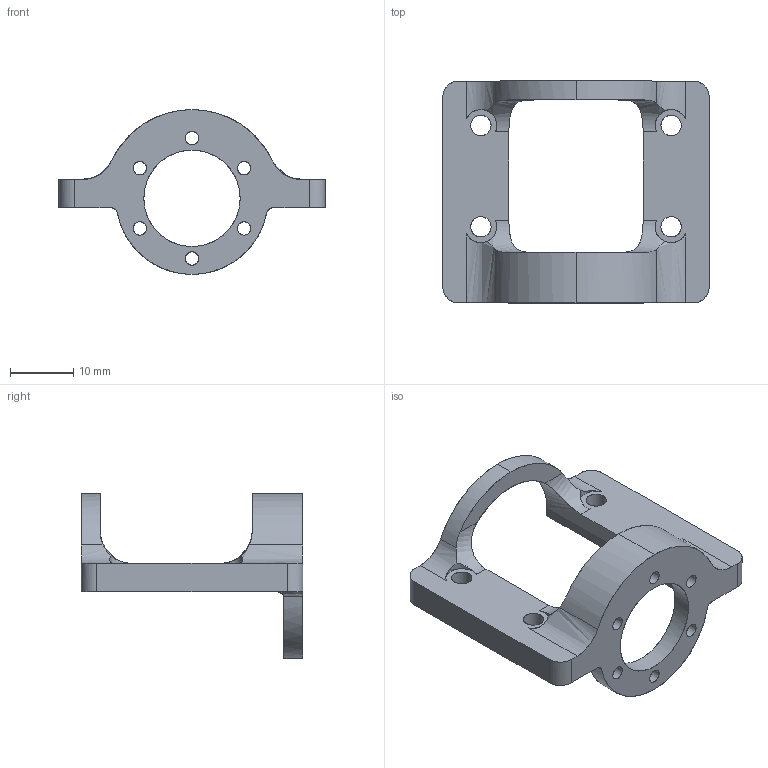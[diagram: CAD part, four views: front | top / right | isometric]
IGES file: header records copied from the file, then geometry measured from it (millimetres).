
Start section: C
Global section: file name: motorhousing.igs; native system:  By UGS Corp.; preprocessor: XPlus GENERIC/IGES 3.0; author: Author; organization: Title; date: 20121205.205348; units: millimetre
Bounding box: 42 x 35 x 26 mm (x, y, z)
Surface area: 4071 mm2 (no closed solid volume)
Topology: 0 solids, 0 shells, 53 faces, 356 edges, 356 vertices
Faces by surface type: bspline 53
